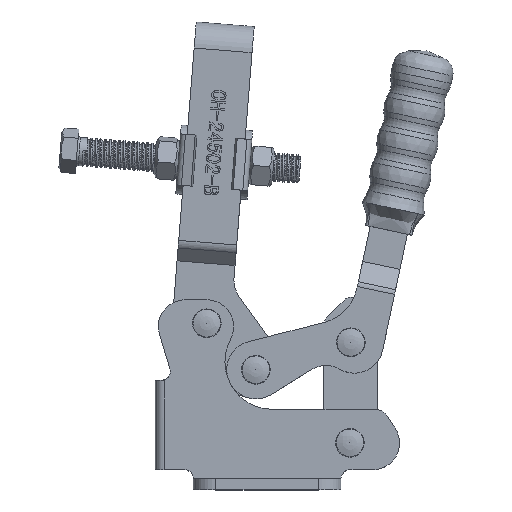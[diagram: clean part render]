
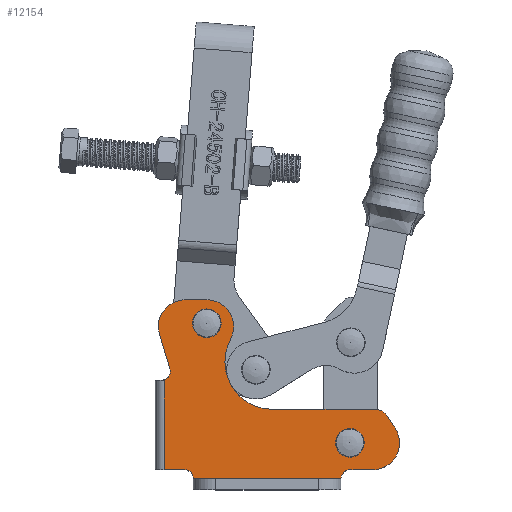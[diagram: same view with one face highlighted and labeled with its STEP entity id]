
A CAD part, top view. The second image highlights one B-rep face of the part: STEP entity #12154.
In plain terms, the highlighted planar face has unit normal (0, 0, 1).
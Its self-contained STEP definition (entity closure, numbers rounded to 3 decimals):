
#185=FACE_BOUND('',#4534,.T.);
#186=FACE_BOUND('',#4535,.T.);
#432=PLANE('',#12915);
#2141=LINE('',#54302,#3127);
#2146=LINE('',#54323,#3132);
#2150=LINE('',#54349,#3136);
#2151=LINE('',#54350,#3137);
#2152=LINE('',#54352,#3138);
#2153=LINE('',#54356,#3139);
#2154=LINE('',#54360,#3140);
#2155=LINE('',#54364,#3141);
#2156=LINE('',#54370,#3142);
#2157=LINE('',#54373,#3143);
#3127=VECTOR('',#14837,1000.);
#3132=VECTOR('',#14858,1000.);
#3136=VECTOR('',#14886,1000.);
#3137=VECTOR('',#14887,1000.);
#3138=VECTOR('',#14888,1000.);
#3139=VECTOR('',#14891,1000.);
#3140=VECTOR('',#14894,1000.);
#3141=VECTOR('',#14897,1000.);
#3142=VECTOR('',#14902,1000.);
#3143=VECTOR('',#14905,1000.);
#3849=FACE_OUTER_BOUND('',#4533,.T.);
#4533=EDGE_LOOP('',(#10840,#10841,#10842,#10843,#10844,#10845,#10846,#10847,
#10848,#10849,#10850,#10851,#10852,#10853,#10854,#10855,#10856,#10857));
#4534=EDGE_LOOP('',(#10858,#10859));
#4535=EDGE_LOOP('',(#10860,#10861));
#4806=CIRCLE('',#12911,4.);
#4809=CIRCLE('',#12916,4.);
#4810=CIRCLE('',#12917,4.);
#4811=CIRCLE('',#12918,12.);
#4812=CIRCLE('',#12919,6.);
#4813=CIRCLE('',#12920,21.3);
#4814=CIRCLE('',#12921,12.);
#4815=CIRCLE('',#12922,12.);
#4816=CIRCLE('',#12923,4.75);
#4817=CIRCLE('',#12924,4.75);
#4818=CIRCLE('',#12925,4.75);
#4819=CIRCLE('',#12926,4.75);
#5915=VERTEX_POINT('',#54299);
#5916=VERTEX_POINT('',#54301);
#5924=VERTEX_POINT('',#54321);
#5929=VERTEX_POINT('',#54335);
#5932=VERTEX_POINT('',#54345);
#5933=VERTEX_POINT('',#54346);
#5934=VERTEX_POINT('',#54348);
#5935=VERTEX_POINT('',#54351);
#5936=VERTEX_POINT('',#54353);
#5937=VERTEX_POINT('',#54355);
#5938=VERTEX_POINT('',#54357);
#5939=VERTEX_POINT('',#54359);
#5940=VERTEX_POINT('',#54361);
#5941=VERTEX_POINT('',#54363);
#5942=VERTEX_POINT('',#54365);
#5943=VERTEX_POINT('',#54367);
#5944=VERTEX_POINT('',#54369);
#5945=VERTEX_POINT('',#54371);
#5946=VERTEX_POINT('',#54374);
#5947=VERTEX_POINT('',#54375);
#5948=VERTEX_POINT('',#54378);
#5949=VERTEX_POINT('',#54379);
#7602=EDGE_CURVE('',#5915,#5916,#2141,.T.);
#7613=EDGE_CURVE('',#5924,#5915,#2146,.T.);
#7619=EDGE_CURVE('',#5929,#5916,#4806,.T.);
#7624=EDGE_CURVE('',#5932,#5933,#4809,.T.);
#7625=EDGE_CURVE('',#5932,#5934,#2150,.T.);
#7626=EDGE_CURVE('',#5929,#5934,#2151,.T.);
#7627=EDGE_CURVE('',#5935,#5924,#2152,.T.);
#7628=EDGE_CURVE('',#5935,#5936,#4810,.T.);
#7629=EDGE_CURVE('',#5937,#5936,#2153,.T.);
#7630=EDGE_CURVE('',#5938,#5937,#4811,.T.);
#7631=EDGE_CURVE('',#5939,#5938,#2154,.T.);
#7632=EDGE_CURVE('',#5940,#5939,#4812,.T.);
#7633=EDGE_CURVE('',#5941,#5940,#2155,.T.);
#7634=EDGE_CURVE('',#5942,#5941,#4813,.T.);
#7635=EDGE_CURVE('',#5943,#5942,#4814,.T.);
#7636=EDGE_CURVE('',#5943,#5944,#2156,.T.);
#7637=EDGE_CURVE('',#5945,#5944,#4815,.T.);
#7638=EDGE_CURVE('',#5933,#5945,#2157,.T.);
#7639=EDGE_CURVE('',#5946,#5947,#4816,.T.);
#7640=EDGE_CURVE('',#5947,#5946,#4817,.T.);
#7641=EDGE_CURVE('',#5948,#5949,#4818,.T.);
#7642=EDGE_CURVE('',#5949,#5948,#4819,.T.);
#10840=ORIENTED_EDGE('',*,*,#7624,.F.);
#10841=ORIENTED_EDGE('',*,*,#7625,.T.);
#10842=ORIENTED_EDGE('',*,*,#7626,.F.);
#10843=ORIENTED_EDGE('',*,*,#7619,.T.);
#10844=ORIENTED_EDGE('',*,*,#7602,.F.);
#10845=ORIENTED_EDGE('',*,*,#7613,.F.);
#10846=ORIENTED_EDGE('',*,*,#7627,.F.);
#10847=ORIENTED_EDGE('',*,*,#7628,.T.);
#10848=ORIENTED_EDGE('',*,*,#7629,.F.);
#10849=ORIENTED_EDGE('',*,*,#7630,.F.);
#10850=ORIENTED_EDGE('',*,*,#7631,.F.);
#10851=ORIENTED_EDGE('',*,*,#7632,.F.);
#10852=ORIENTED_EDGE('',*,*,#7633,.F.);
#10853=ORIENTED_EDGE('',*,*,#7634,.F.);
#10854=ORIENTED_EDGE('',*,*,#7635,.F.);
#10855=ORIENTED_EDGE('',*,*,#7636,.T.);
#10856=ORIENTED_EDGE('',*,*,#7637,.F.);
#10857=ORIENTED_EDGE('',*,*,#7638,.F.);
#10858=ORIENTED_EDGE('',*,*,#7639,.T.);
#10859=ORIENTED_EDGE('',*,*,#7640,.T.);
#10860=ORIENTED_EDGE('',*,*,#7641,.T.);
#10861=ORIENTED_EDGE('',*,*,#7642,.T.);
#12154=ADVANCED_FACE('',(#3849,#185,#186),#432,.F.);
#12911=AXIS2_PLACEMENT_3D('',#54336,#14872,#14873);
#12915=AXIS2_PLACEMENT_3D('',#54344,#14882,#14883);
#12916=AXIS2_PLACEMENT_3D('',#54347,#14884,#14885);
#12917=AXIS2_PLACEMENT_3D('',#54354,#14889,#14890);
#12918=AXIS2_PLACEMENT_3D('',#54358,#14892,#14893);
#12919=AXIS2_PLACEMENT_3D('',#54362,#14895,#14896);
#12920=AXIS2_PLACEMENT_3D('',#54366,#14898,#14899);
#12921=AXIS2_PLACEMENT_3D('',#54368,#14900,#14901);
#12922=AXIS2_PLACEMENT_3D('',#54372,#14903,#14904);
#12923=AXIS2_PLACEMENT_3D('',#54376,#14906,#14907);
#12924=AXIS2_PLACEMENT_3D('',#54377,#14908,#14909);
#12925=AXIS2_PLACEMENT_3D('',#54380,#14910,#14911);
#12926=AXIS2_PLACEMENT_3D('',#54381,#14912,#14913);
#14837=DIRECTION('',(0.,-1.,0.));
#14858=DIRECTION('',(-1.,0.,0.));
#14872=DIRECTION('center_axis',(0.,0.,-1.));
#14873=DIRECTION('ref_axis',(-1.,0.,0.));
#14882=DIRECTION('center_axis',(0.,0.,-1.));
#14883=DIRECTION('ref_axis',(-1.,0.,0.));
#14884=DIRECTION('center_axis',(0.,0.,1.));
#14885=DIRECTION('ref_axis',(-1.,0.,0.));
#14886=DIRECTION('',(0.,-1.,0.));
#14887=DIRECTION('',(-1.,0.,0.));
#14888=DIRECTION('',(0.,1.,0.));
#14889=DIRECTION('center_axis',(0.,0.,-1.));
#14890=DIRECTION('ref_axis',(-1.,0.,0.));
#14891=DIRECTION('',(-1.,0.,0.));
#14892=DIRECTION('center_axis',(0.,0.,-1.));
#14893=DIRECTION('ref_axis',(-1.,0.,0.));
#14894=DIRECTION('',(0.555,-0.832,0.));
#14895=DIRECTION('center_axis',(0.,0.,-1.));
#14896=DIRECTION('ref_axis',(-1.,0.,0.));
#14897=DIRECTION('',(1.,0.,0.));
#14898=DIRECTION('center_axis',(0.,0.,1.));
#14899=DIRECTION('ref_axis',(-1.,0.,0.));
#14900=DIRECTION('center_axis',(0.,0.,-1.));
#14901=DIRECTION('ref_axis',(-1.,0.,0.));
#14902=DIRECTION('',(-1.,0.,0.));
#14903=DIRECTION('center_axis',(0.,0.,-1.));
#14904=DIRECTION('ref_axis',(-1.,0.,0.));
#14905=DIRECTION('',(-0.287,0.958,0.));
#14906=DIRECTION('center_axis',(0.,0.,-1.));
#14907=DIRECTION('ref_axis',(-1.,0.,0.));
#14908=DIRECTION('center_axis',(0.,0.,-1.));
#14909=DIRECTION('ref_axis',(-1.,0.,0.));
#14910=DIRECTION('center_axis',(0.,0.,-1.));
#14911=DIRECTION('ref_axis',(-1.,0.,0.));
#14912=DIRECTION('center_axis',(0.,0.,-1.));
#14913=DIRECTION('ref_axis',(-1.,0.,0.));
#54299=CARTESIAN_POINT('',(0.,5.,43.5));
#54301=CARTESIAN_POINT('',(0.,4.975,43.5));
#54302=CARTESIAN_POINT('',(0.,5.,43.5));
#54321=CARTESIAN_POINT('',(66.,5.,43.5));
#54323=CARTESIAN_POINT('',(92.228,5.,43.5));
#54335=CARTESIAN_POINT('',(-4.,8.975,43.5));
#54336=CARTESIAN_POINT('Origin',(-4.,4.975,43.5));
#54344=CARTESIAN_POINT('Origin',(92.228,5.,43.5));
#54345=CARTESIAN_POINT('',(-13.,49.219,43.5));
#54346=CARTESIAN_POINT('',(-10.545,54.124,43.5));
#54347=CARTESIAN_POINT('Origin',(-14.376,52.975,43.5));
#54348=CARTESIAN_POINT('',(-13.,8.975,43.5));
#54349=CARTESIAN_POINT('',(-13.,5.,43.5));
#54350=CARTESIAN_POINT('',(0.,8.975,43.5));
#54351=CARTESIAN_POINT('',(66.,4.975,43.5));
#54352=CARTESIAN_POINT('',(66.,5.,43.5));
#54353=CARTESIAN_POINT('',(70.,8.975,43.5));
#54354=CARTESIAN_POINT('Origin',(70.,4.975,43.5));
#54355=CARTESIAN_POINT('',(80.228,8.975,43.5));
#54356=CARTESIAN_POINT('',(66.,8.975,43.5));
#54357=CARTESIAN_POINT('',(90.211,27.633,43.5));
#54358=CARTESIAN_POINT('Origin',(80.228,20.975,43.5));
#54359=CARTESIAN_POINT('',(86.412,33.329,43.5));
#54360=CARTESIAN_POINT('',(86.412,33.329,43.5));
#54361=CARTESIAN_POINT('',(81.42,36.,43.5));
#54362=CARTESIAN_POINT('Origin',(81.42,30.,43.5));
#54363=CARTESIAN_POINT('',(35.387,36.,43.5));
#54364=CARTESIAN_POINT('',(35.387,36.,43.5));
#54365=CARTESIAN_POINT('',(16.603,67.342,43.5));
#54366=CARTESIAN_POINT('Origin',(35.387,57.3,43.5));
#54367=CARTESIAN_POINT('',(6.02,85.,43.5));
#54368=CARTESIAN_POINT('Origin',(6.02,73.,43.5));
#54369=CARTESIAN_POINT('',(-3.68,85.,43.5));
#54370=CARTESIAN_POINT('',(92.228,85.,43.5));
#54371=CARTESIAN_POINT('',(-15.173,69.552,43.5));
#54372=CARTESIAN_POINT('Origin',(-3.68,73.,43.5));
#54373=CARTESIAN_POINT('',(-10.545,54.124,43.5));
#54374=CARTESIAN_POINT('',(1.25,74.5,43.5));
#54375=CARTESIAN_POINT('',(10.75,74.5,43.5));
#54376=CARTESIAN_POINT('Origin',(6.,74.5,43.5));
#54377=CARTESIAN_POINT('Origin',(6.,74.5,43.5));
#54378=CARTESIAN_POINT('',(65.25,21.,43.5));
#54379=CARTESIAN_POINT('',(74.75,21.,43.5));
#54380=CARTESIAN_POINT('Origin',(70.,21.,43.5));
#54381=CARTESIAN_POINT('Origin',(70.,21.,43.5));
